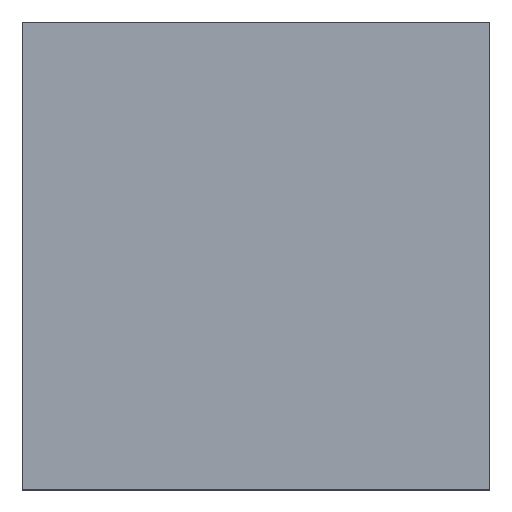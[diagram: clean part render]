
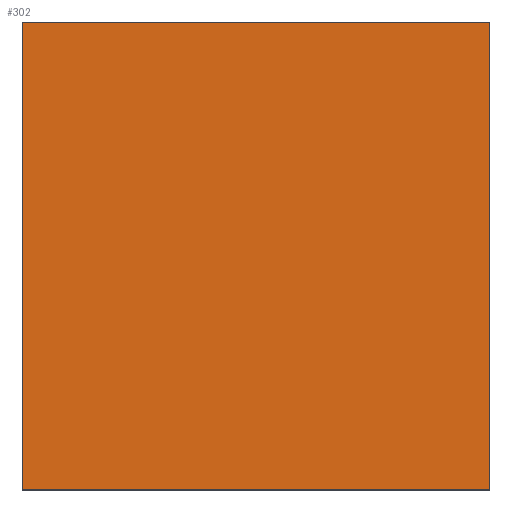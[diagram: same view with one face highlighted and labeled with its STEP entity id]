
A CAD part, top view. The second image highlights one B-rep face of the part: STEP entity #302.
In plain terms, the highlighted free-form (B-spline) face has degree [1, 1] with [2, 2] control points.
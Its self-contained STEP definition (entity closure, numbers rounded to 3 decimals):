
#24 = VERTEX_POINT('',#25);
#25 = CARTESIAN_POINT('',(-50.,-50.,17.4));
#31 = B_SPLINE_SURFACE_WITH_KNOTS('',1,1,(
    (#32,#33)
    ,(#34,#35
  )),.UNSPECIFIED.,.F.,.F.,.F.,(2,2),(2,2),(0.,2.),(-100.,0.),
  .PIECEWISE_BEZIER_KNOTS.);
#32 = CARTESIAN_POINT('',(-50.,50.,15.4));
#33 = CARTESIAN_POINT('',(-50.,-50.,15.4));
#34 = CARTESIAN_POINT('',(-50.,50.,17.4));
#35 = CARTESIAN_POINT('',(-50.,-50.,17.4));
#42 = B_SPLINE_SURFACE_WITH_KNOTS('',1,1,(
    (#43,#44)
    ,(#45,#46)),.UNSPECIFIED.,.F.,.F.,.F.,(2,2),(2,2),(0.,2.),(0.,100.),
  .PIECEWISE_BEZIER_KNOTS.);
#43 = CARTESIAN_POINT('',(-50.,-50.,15.4));
#44 = CARTESIAN_POINT('',(50.,-50.,15.4));
#45 = CARTESIAN_POINT('',(-50.,-50.,17.4));
#46 = CARTESIAN_POINT('',(50.,-50.,17.4));
#79 = VERTEX_POINT('',#80);
#80 = CARTESIAN_POINT('',(-50.,50.,17.4));
#92 = B_SPLINE_SURFACE_WITH_KNOTS('',1,1,(
    (#93,#94)
    ,(#95,#96)),.UNSPECIFIED.,.F.,.F.,.F.,(2,2),(2,2),(0.,2.),(0.,100.),
  .PIECEWISE_BEZIER_KNOTS.);
#93 = CARTESIAN_POINT('',(-50.,50.,15.4));
#94 = CARTESIAN_POINT('',(50.,50.,15.4));
#95 = CARTESIAN_POINT('',(-50.,50.,17.4));
#96 = CARTESIAN_POINT('',(50.,50.,17.4));
#103 = EDGE_CURVE('',#24,#79,#104,.T.);
#104 = SURFACE_CURVE('',#105,(#108,#114),.PCURVE_S1.);
#105 = B_SPLINE_CURVE_WITH_KNOTS('',1,(#106,#107),.UNSPECIFIED.,.F.,.F.,
  (2,2),(0.,100.),.PIECEWISE_BEZIER_KNOTS.);
#106 = CARTESIAN_POINT('',(-50.,-50.,17.4));
#107 = CARTESIAN_POINT('',(-50.,50.,17.4));
#108 = PCURVE('',#31,#109);
#109 = DEFINITIONAL_REPRESENTATION('',(#110),#113);
#110 = B_SPLINE_CURVE_WITH_KNOTS('',1,(#111,#112),.UNSPECIFIED.,.F.,.F.,
  (2,2),(0.,100.),.PIECEWISE_BEZIER_KNOTS.);
#111 = CARTESIAN_POINT('',(2.,0.));
#112 = CARTESIAN_POINT('',(2.,-100.));
#113 = ( GEOMETRIC_REPRESENTATION_CONTEXT(2) 
PARAMETRIC_REPRESENTATION_CONTEXT() REPRESENTATION_CONTEXT('2D SPACE',''
  ) );
#114 = PCURVE('',#115,#120);
#115 = B_SPLINE_SURFACE_WITH_KNOTS('',1,1,(
    (#116,#117)
    ,(#118,#119
    )),.UNSPECIFIED.,.F.,.F.,.F.,(2,2),(2,2),(0.,100.),(0.,100.),
  .PIECEWISE_BEZIER_KNOTS.);
#116 = CARTESIAN_POINT('',(-50.,-50.,17.4));
#117 = CARTESIAN_POINT('',(-50.,50.,17.4));
#118 = CARTESIAN_POINT('',(50.,-50.,17.4));
#119 = CARTESIAN_POINT('',(50.,50.,17.4));
#120 = DEFINITIONAL_REPRESENTATION('',(#121),#124);
#121 = B_SPLINE_CURVE_WITH_KNOTS('',1,(#122,#123),.UNSPECIFIED.,.F.,.F.,
  (2,2),(0.,100.),.PIECEWISE_BEZIER_KNOTS.);
#122 = CARTESIAN_POINT('',(0.,0.));
#123 = CARTESIAN_POINT('',(0.,100.));
#124 = ( GEOMETRIC_REPRESENTATION_CONTEXT(2) 
PARAMETRIC_REPRESENTATION_CONTEXT() REPRESENTATION_CONTEXT('2D SPACE',''
  ) );
#132 = VERTEX_POINT('',#133);
#133 = CARTESIAN_POINT('',(50.,-50.,17.4));
#139 = B_SPLINE_SURFACE_WITH_KNOTS('',1,1,(
    (#140,#141)
    ,(#142,#143
    )),.UNSPECIFIED.,.F.,.F.,.F.,(2,2),(2,2),(0.,2.),(-100.,0.),
  .PIECEWISE_BEZIER_KNOTS.);
#140 = CARTESIAN_POINT('',(50.,50.,15.4));
#141 = CARTESIAN_POINT('',(50.,-50.,15.4));
#142 = CARTESIAN_POINT('',(50.,50.,17.4));
#143 = CARTESIAN_POINT('',(50.,-50.,17.4));
#177 = VERTEX_POINT('',#178);
#178 = CARTESIAN_POINT('',(50.,50.,17.4));
#196 = EDGE_CURVE('',#132,#177,#197,.T.);
#197 = SURFACE_CURVE('',#198,(#201,#207),.PCURVE_S1.);
#198 = B_SPLINE_CURVE_WITH_KNOTS('',1,(#199,#200),.UNSPECIFIED.,.F.,.F.,
  (2,2),(0.,100.),.PIECEWISE_BEZIER_KNOTS.);
#199 = CARTESIAN_POINT('',(50.,-50.,17.4));
#200 = CARTESIAN_POINT('',(50.,50.,17.4));
#201 = PCURVE('',#139,#202);
#202 = DEFINITIONAL_REPRESENTATION('',(#203),#206);
#203 = B_SPLINE_CURVE_WITH_KNOTS('',1,(#204,#205),.UNSPECIFIED.,.F.,.F.,
  (2,2),(0.,100.),.PIECEWISE_BEZIER_KNOTS.);
#204 = CARTESIAN_POINT('',(2.,0.));
#205 = CARTESIAN_POINT('',(2.,-100.));
#206 = ( GEOMETRIC_REPRESENTATION_CONTEXT(2) 
PARAMETRIC_REPRESENTATION_CONTEXT() REPRESENTATION_CONTEXT('2D SPACE',''
  ) );
#207 = PCURVE('',#115,#208);
#208 = DEFINITIONAL_REPRESENTATION('',(#209),#212);
#209 = B_SPLINE_CURVE_WITH_KNOTS('',1,(#210,#211),.UNSPECIFIED.,.F.,.F.,
  (2,2),(0.,100.),.PIECEWISE_BEZIER_KNOTS.);
#210 = CARTESIAN_POINT('',(100.,0.));
#211 = CARTESIAN_POINT('',(100.,100.));
#212 = ( GEOMETRIC_REPRESENTATION_CONTEXT(2) 
PARAMETRIC_REPRESENTATION_CONTEXT() REPRESENTATION_CONTEXT('2D SPACE',''
  ) );
#236 = EDGE_CURVE('',#24,#132,#237,.T.);
#237 = SURFACE_CURVE('',#238,(#241,#247),.PCURVE_S1.);
#238 = B_SPLINE_CURVE_WITH_KNOTS('',1,(#239,#240),.UNSPECIFIED.,.F.,.F.,
  (2,2),(0.,100.),.PIECEWISE_BEZIER_KNOTS.);
#239 = CARTESIAN_POINT('',(-50.,-50.,17.4));
#240 = CARTESIAN_POINT('',(50.,-50.,17.4));
#241 = PCURVE('',#42,#242);
#242 = DEFINITIONAL_REPRESENTATION('',(#243),#246);
#243 = B_SPLINE_CURVE_WITH_KNOTS('',1,(#244,#245),.UNSPECIFIED.,.F.,.F.,
  (2,2),(0.,100.),.PIECEWISE_BEZIER_KNOTS.);
#244 = CARTESIAN_POINT('',(2.,0.));
#245 = CARTESIAN_POINT('',(2.,100.));
#246 = ( GEOMETRIC_REPRESENTATION_CONTEXT(2) 
PARAMETRIC_REPRESENTATION_CONTEXT() REPRESENTATION_CONTEXT('2D SPACE',''
  ) );
#247 = PCURVE('',#115,#248);
#248 = DEFINITIONAL_REPRESENTATION('',(#249),#252);
#249 = B_SPLINE_CURVE_WITH_KNOTS('',1,(#250,#251),.UNSPECIFIED.,.F.,.F.,
  (2,2),(0.,100.),.PIECEWISE_BEZIER_KNOTS.);
#250 = CARTESIAN_POINT('',(0.,0.));
#251 = CARTESIAN_POINT('',(100.,0.));
#252 = ( GEOMETRIC_REPRESENTATION_CONTEXT(2) 
PARAMETRIC_REPRESENTATION_CONTEXT() REPRESENTATION_CONTEXT('2D SPACE',''
  ) );
#277 = EDGE_CURVE('',#79,#177,#278,.T.);
#278 = SURFACE_CURVE('',#279,(#282,#288),.PCURVE_S1.);
#279 = B_SPLINE_CURVE_WITH_KNOTS('',1,(#280,#281),.UNSPECIFIED.,.F.,.F.,
  (2,2),(0.,100.),.PIECEWISE_BEZIER_KNOTS.);
#280 = CARTESIAN_POINT('',(-50.,50.,17.4));
#281 = CARTESIAN_POINT('',(50.,50.,17.4));
#282 = PCURVE('',#92,#283);
#283 = DEFINITIONAL_REPRESENTATION('',(#284),#287);
#284 = B_SPLINE_CURVE_WITH_KNOTS('',1,(#285,#286),.UNSPECIFIED.,.F.,.F.,
  (2,2),(0.,100.),.PIECEWISE_BEZIER_KNOTS.);
#285 = CARTESIAN_POINT('',(2.,0.));
#286 = CARTESIAN_POINT('',(2.,100.));
#287 = ( GEOMETRIC_REPRESENTATION_CONTEXT(2) 
PARAMETRIC_REPRESENTATION_CONTEXT() REPRESENTATION_CONTEXT('2D SPACE',''
  ) );
#288 = PCURVE('',#115,#289);
#289 = DEFINITIONAL_REPRESENTATION('',(#290),#293);
#290 = B_SPLINE_CURVE_WITH_KNOTS('',1,(#291,#292),.UNSPECIFIED.,.F.,.F.,
  (2,2),(0.,100.),.PIECEWISE_BEZIER_KNOTS.);
#291 = CARTESIAN_POINT('',(0.,100.));
#292 = CARTESIAN_POINT('',(100.,100.));
#293 = ( GEOMETRIC_REPRESENTATION_CONTEXT(2) 
PARAMETRIC_REPRESENTATION_CONTEXT() REPRESENTATION_CONTEXT('2D SPACE',''
  ) );
#302 = ADVANCED_FACE('',(#303),#115,.T.);
#303 = FACE_BOUND('',#304,.T.);
#304 = EDGE_LOOP('',(#305,#306,#307,#308));
#305 = ORIENTED_EDGE('',*,*,#103,.F.);
#306 = ORIENTED_EDGE('',*,*,#236,.T.);
#307 = ORIENTED_EDGE('',*,*,#196,.T.);
#308 = ORIENTED_EDGE('',*,*,#277,.F.);
